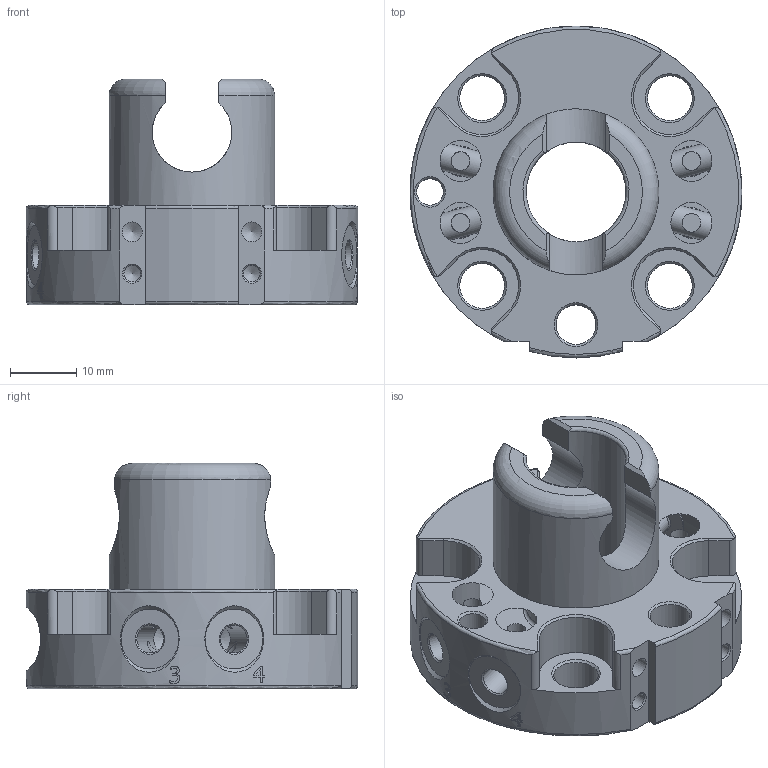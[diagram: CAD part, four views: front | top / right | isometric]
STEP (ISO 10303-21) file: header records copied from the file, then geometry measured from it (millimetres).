
FILE_DESCRIPTION(/* description */ (''),/* implementation_level */ '2;1');
FILE_NAME(/* name */ 'G-SHS050-U-A040.stp',/* time_stamp */ '2024-05-24T11:26:13+02:00',/* author */ ('ysplieth'),/* organization */ (''),/* preprocessor_version */ 'ST-DEVELOPER v20',/* originating_system */ 'Autodesk Inventor 2024',/* authorisation */ '');
FILE_SCHEMA (('AUTOMOTIVE_DESIGN { 1 0 10303 214 3 1 1 }'));
Length unit declared in the file: millimetre
Products named in the file (1): Bauteil1
Bounding box: 50 x 50 x 34 mm (x, y, z)
Volume: 23179.1 mm3; surface area: 11048.2 mm2
Topology: 1 solids, 1 shells, 475 faces, 1273 edges, 838 vertices
Faces by surface type: plane 205, bspline 132, cone 68, cylinder 56, torus 14
Full cylindrical faces by diameter (mm): 2.5 x2, 2.8 x4, 3 x2, 4 x1, 4.2 x12, 6 x1, 6.75 x4, 7 x4, 15 x1, 25 x2
Entity records: 17758 total; most frequent: CARTESIAN_POINT 6193, ORIENTED_EDGE 2522, DIRECTION 1849, EDGE_CURVE 1261, VERTEX_POINT 838, LINE 645, VECTOR 645, AXIS2_PLACEMENT_3D 602
